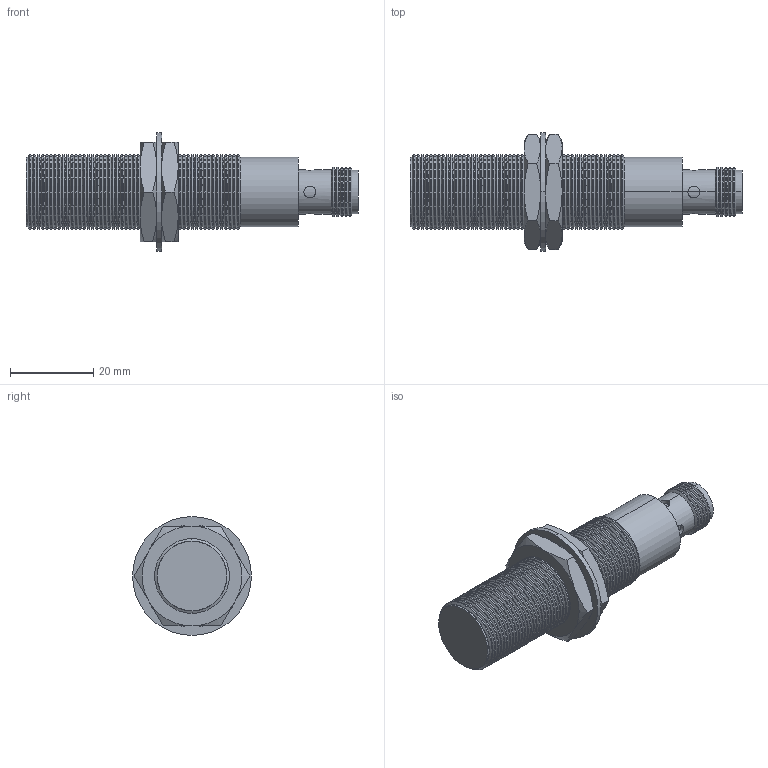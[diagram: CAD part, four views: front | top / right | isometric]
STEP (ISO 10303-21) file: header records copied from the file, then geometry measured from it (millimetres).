
FILE_DESCRIPTION (( 'STEP AP203' ), '1' );
FILE_NAME ('90-29417-059.STEP', '2015-11-15T03:00:32', ( 'Sam' ), ( 'Spade' ), 'SwSTEP 2.0', 'SolidWorks 2002296', '' );
FILE_SCHEMA (( 'CONFIG_CONTROL_DESIGN' ));
Length unit declared in the file: inch
Products named in the file (11): 90-29417-059; Imported39; Imported38; Imported37; Imported36; Imported35; Imported34; Imported33; Imported32; Imported31; Imported30
Assembly tree (10 placements, depth 2):
  90-29417-059
    Imported33
    Imported35
    Imported30
    Imported39
    Imported37
    Imported32
    Imported36
    Imported31
    Imported38
    Imported34
Bounding box: 79.82 x 28.57 x 28.57 mm (x, y, z)
Volume: 18905 mm3; surface area: 11314.1 mm2
Topology: 10 solids, 10 shells, 650 faces, 1493 edges, 859 vertices
Faces by surface type: cylinder 289, cone 280, plane 75, bspline 6
Entity records: 19910 total; most frequent: CARTESIAN_POINT 3715, DIRECTION 3479, ORIENTED_EDGE 2974, EDGE_CURVE 1487, AXIS2_PLACEMENT_3D 1399, VERTEX_POINT 859, CIRCLE 742, LINE 681
